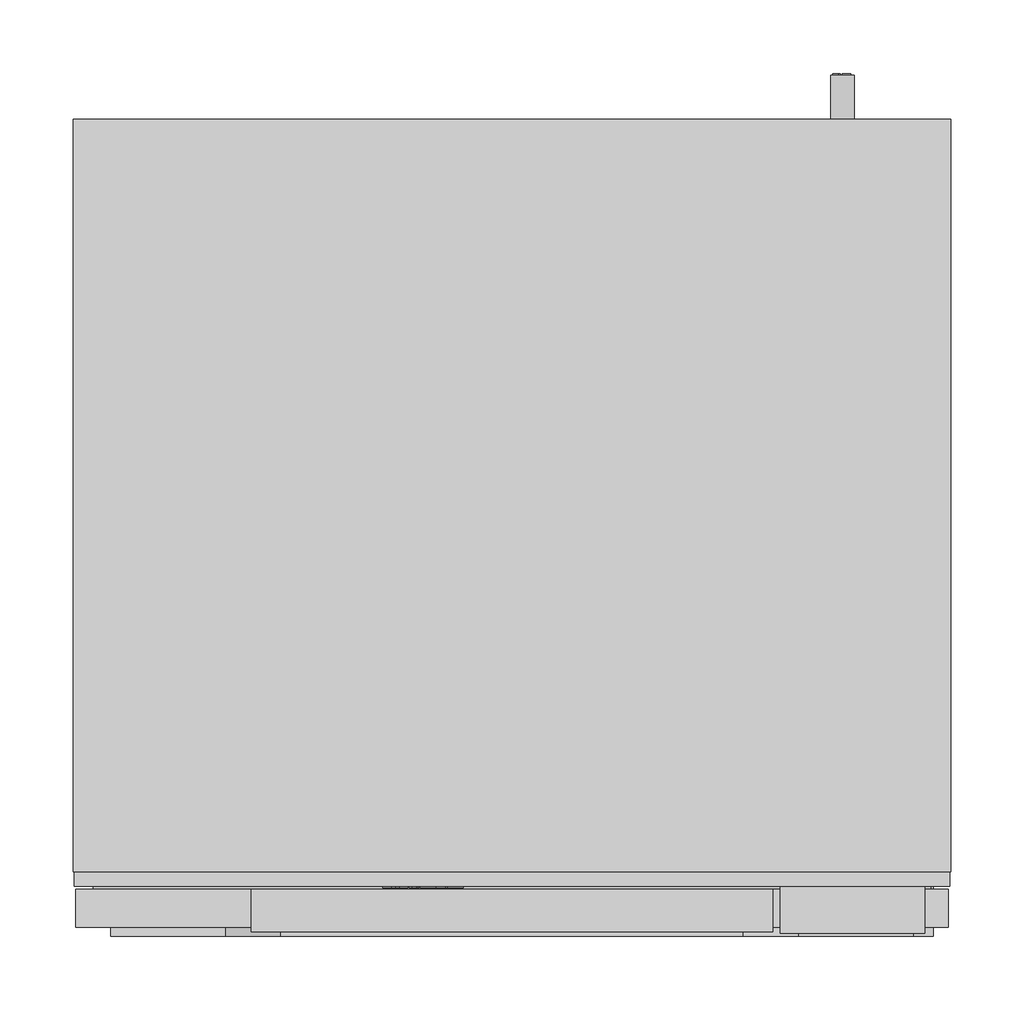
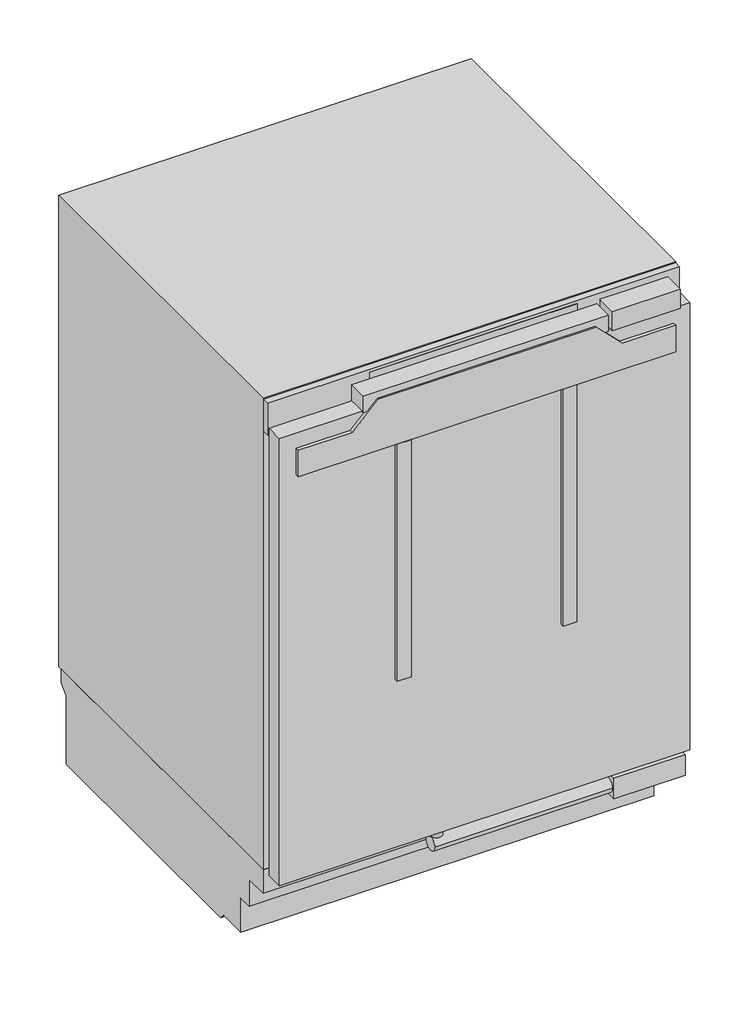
# Not in any storey: 1 proxy.
"""IFC4 building model written with IfcOpenShell, lengths in millimetres."""

from ifc_helpers import new_model, si_unit, origin, place, context, project, spatial, transform, mapped, element, save
from components import specialty_equipment_4b23c88b

model = new_model("IFC4")

# Units and contexts
model_context = context("Model", 3, world=origin())
ifc_project = project(units=[si_unit("LENGTHUNIT", "METRE", prefix="MILLI")], contexts=[model_context])

# Site, building
site = spatial("IfcSite", under=ifc_project)
building = spatial("IfcBuilding", under=site)

# Proxy
placement = place(None, origin())
specialty_equipment_shape = specialty_equipment_4b23c88b(model_context)
element("IfcBuildingElementProxy", 1, Name="12519190_EU1_KU7135C : 36713510_EU1_12519190_KU7135C", ObjectType="12519190_EU1_KU7135C : 36713510_EU1_12519190_KU7135C", at=placement, inside=building, context=model_context, shape_type="MappedRepresentation", body=[
    mapped(specialty_equipment_shape, transform((0.0, 0.0, 0.0), x_axis=(1.0, 0.0, 0.0), y_axis=(0.0, 1.0, 0.0), z_axis=(0.0, 0.0, 1.0))),
])

save(model, "model.ifc")
